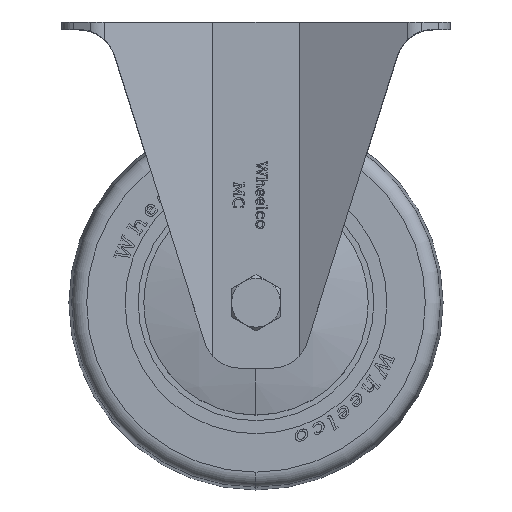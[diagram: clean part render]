
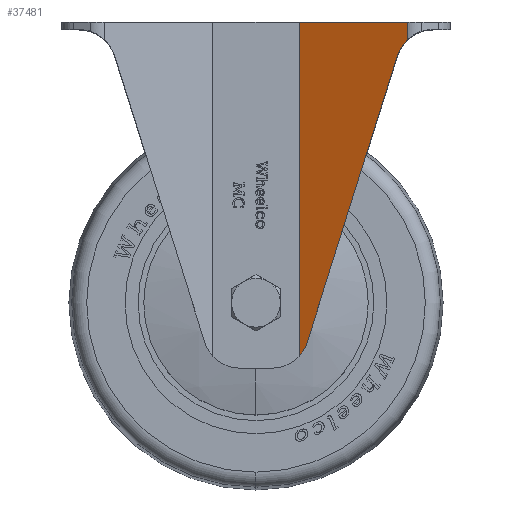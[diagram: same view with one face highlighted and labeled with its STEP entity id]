
A CAD part, top view. The second image highlights one B-rep face of the part: STEP entity #37481.
In plain terms, the highlighted planar face has unit normal (-0.436, 0, 0.9) as drawn and (-0.436, 0, -0.9) by its records, which use the part's own axes.
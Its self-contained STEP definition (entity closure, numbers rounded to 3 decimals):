
#128 = CARTESIAN_POINT ( 'NONE',  ( 40.554, 4.65, -39.058 ) ) ;
#1514 = EDGE_CURVE ( 'NONE', #5522, #15740, #29294, .T. ) ;
#1687 = DIRECTION ( 'NONE',  ( 0., -1., 0. ) ) ;
#1776 = FACE_OUTER_BOUND ( 'NONE', #37253, .T. ) ;
#1825 = DIRECTION ( 'NONE',  ( -0.297, 0.944, 0.144 ) ) ;
#2283 = CARTESIAN_POINT ( 'NONE',  ( 13.703, 85.504, -26.066 ) ) ;
#2687 =( BOUNDED_CURVE ( )  B_SPLINE_CURVE ( 3, ( #5671, #38884, #9303, #2283 ),
 .UNSPECIFIED., .F., .T. ) 
 B_SPLINE_CURVE_WITH_KNOTS ( ( 4, 4 ),
 ( 2.394, 2.837 ),
 .UNSPECIFIED. ) 
 CURVE ( )  GEOMETRIC_REPRESENTATION_ITEM ( )  RATIONAL_B_SPLINE_CURVE ( ( 1., 0.984, 0.984, 1. ) ) 
 REPRESENTATION_ITEM ( '' )  );
#2697 = VECTOR ( 'NONE', #1687, 1000. ) ;
#3161 = CARTESIAN_POINT ( 'NONE',  ( -34.477, 0., -2.753 ) ) ;
#3542 = EDGE_CURVE ( 'NONE', #35298, #45001, #2687, .T. ) ;
#5241 = CARTESIAN_POINT ( 'NONE',  ( 40.554, 0., -39.058 ) ) ;
#5395 = PLANE ( 'NONE',  #34297 ) ;
#5522 = VERTEX_POINT ( 'NONE', #41180 ) ;
#5671 = CARTESIAN_POINT ( 'NONE',  ( 11.5, 89.297, -25. ) ) ;
#9303 = CARTESIAN_POINT ( 'NONE',  ( 13.257, 86.921, -25.85 ) ) ;
#11400 = ORIENTED_EDGE ( 'NONE', *, *, #12488, .F. ) ;
#11405 = ORIENTED_EDGE ( 'NONE', *, *, #1514, .T. ) ;
#12488 = EDGE_CURVE ( 'NONE', #5522, #45001, #45463, .T. ) ;
#15740 = VERTEX_POINT ( 'NONE', #29506 ) ;
#19653 = ORIENTED_EDGE ( 'NONE', *, *, #45185, .F. ) ;
#19934 = DIRECTION ( 'NONE',  ( -0.436, 0., -0.9 ) ) ;
#20173 = CARTESIAN_POINT ( 'NONE',  ( 42.5, 0., -40. ) ) ;
#21672 = ORIENTED_EDGE ( 'NONE', *, *, #22395, .T. ) ;
#22395 = EDGE_CURVE ( 'NONE', #15740, #40817, #43942, .T. ) ;
#23484 = CARTESIAN_POINT ( 'NONE',  ( 11.5, 89.297, -25. ) ) ;
#27616 = CARTESIAN_POINT ( 'NONE',  ( 11.5, 92.5, -25. ) ) ;
#28180 = VECTOR ( 'NONE', #32804, 1000. ) ;
#28430 = EDGE_CURVE ( 'NONE', #39618, #40817, #29096, .T. ) ;
#29096 = LINE ( 'NONE', #3161, #32462 ) ;
#29294 =( BOUNDED_CURVE ( )  B_SPLINE_CURVE ( 3, ( #37458, #45215, #33821, #128 ),
 .UNSPECIFIED., .F., .T. ) 
 B_SPLINE_CURVE_WITH_KNOTS ( ( 4, 4 ),
 ( 3.447, 3.967 ),
 .UNSPECIFIED. ) 
 CURVE ( )  GEOMETRIC_REPRESENTATION_ITEM ( )  RATIONAL_B_SPLINE_CURVE ( ( 1., 0.978, 0.978, 1. ) ) 
 REPRESENTATION_ITEM ( '' )  );
#29506 = CARTESIAN_POINT ( 'NONE',  ( 40.554, 4.65, -39.058 ) ) ;
#30301 = CARTESIAN_POINT ( 'NONE',  ( 13.703, 85.504, -26.066 ) ) ;
#31226 = ORIENTED_EDGE ( 'NONE', *, *, #3542, .T. ) ;
#32462 = VECTOR ( 'NONE', #40484, 1000. ) ;
#32804 = DIRECTION ( 'NONE',  ( 0., -1., 0. ) ) ;
#33821 = CARTESIAN_POINT ( 'NONE',  ( 39.264, 5.841, -38.434 ) ) ;
#34297 = AXIS2_PLACEMENT_3D ( 'NONE', #20173, #19934, #34502 ) ;
#34502 = DIRECTION ( 'NONE',  ( -0.9, 0., 0.436 ) ) ;
#35298 = VERTEX_POINT ( 'NONE', #23484 ) ;
#37253 = EDGE_LOOP ( 'NONE', ( #11405, #21672, #47312, #19653, #31226, #11400 ) ) ;
#37458 = CARTESIAN_POINT ( 'NONE',  ( 37.797, 8.996, -37.724 ) ) ;
#37481 = ADVANCED_FACE ( 'NONE', ( #1776 ), #5395, .T. ) ;
#38884 = CARTESIAN_POINT ( 'NONE',  ( 12.51, 88.207, -25.489 ) ) ;
#39580 = CARTESIAN_POINT ( 'NONE',  ( 11.5, 0., -25. ) ) ;
#39618 = VERTEX_POINT ( 'NONE', #39580 ) ;
#40314 = VECTOR ( 'NONE', #1825, 1000. ) ;
#40484 = DIRECTION ( 'NONE',  ( 0.9, 0., -0.436 ) ) ;
#40817 = VERTEX_POINT ( 'NONE', #5241 ) ;
#41180 = CARTESIAN_POINT ( 'NONE',  ( 37.797, 8.996, -37.724 ) ) ;
#42302 = CARTESIAN_POINT ( 'NONE',  ( 12.141, 90.464, -25.31 ) ) ;
#43708 = CARTESIAN_POINT ( 'NONE',  ( 40.554, 0., -39.058 ) ) ;
#43942 = LINE ( 'NONE', #43708, #28180 ) ;
#45001 = VERTEX_POINT ( 'NONE', #30301 ) ;
#45185 = EDGE_CURVE ( 'NONE', #35298, #39618, #46293, .T. ) ;
#45215 = CARTESIAN_POINT ( 'NONE',  ( 38.324, 7.322, -37.979 ) ) ;
#45463 = LINE ( 'NONE', #42302, #40314 ) ;
#46293 = LINE ( 'NONE', #27616, #2697 ) ;
#47312 = ORIENTED_EDGE ( 'NONE', *, *, #28430, .F. ) ;
